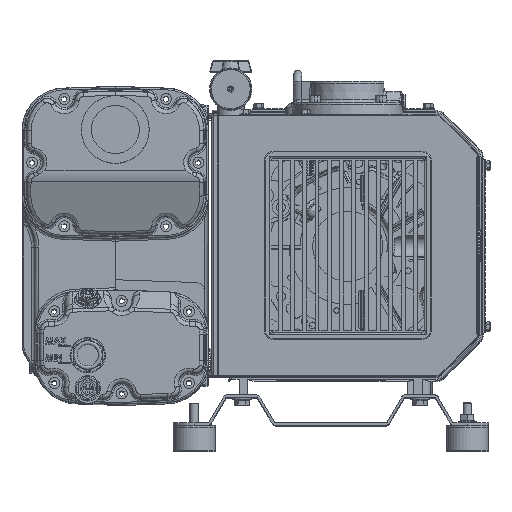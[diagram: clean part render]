
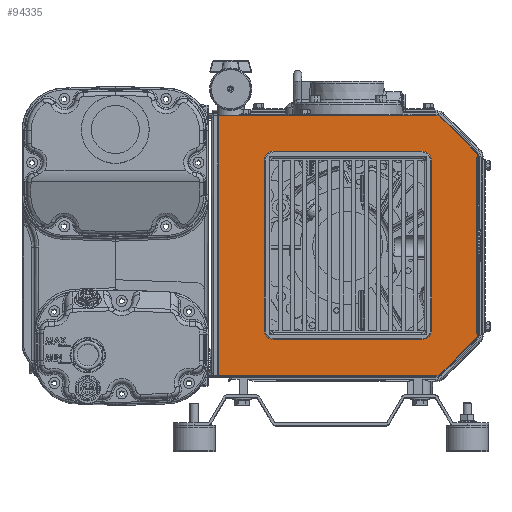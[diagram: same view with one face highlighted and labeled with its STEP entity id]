
A CAD part, top view. The second image highlights one B-rep face of the part: STEP entity #94335.
In plain terms, the highlighted planar face has unit normal (0, 0, 1).
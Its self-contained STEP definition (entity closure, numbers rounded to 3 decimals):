
#1367 = CIRCLE ( 'NONE', #78332, 8.5 ) ;
#6368 = VERTEX_POINT ( 'NONE', #95273 ) ;
#6603 = CARTESIAN_POINT ( 'NONE',  ( 153.5, 103.787, 285. ) ) ;
#8160 = DIRECTION ( 'NONE',  ( 1., 0., 0. ) ) ;
#9947 = CIRCLE ( 'NONE', #98193, 8.5 ) ;
#12001 = ORIENTED_EDGE ( 'NONE', *, *, #92216, .T. ) ;
#13150 = ORIENTED_EDGE ( 'NONE', *, *, #198646, .T. ) ;
#14613 = EDGE_LOOP ( 'NONE', ( #180829, #230528, #23146, #139866 ) ) ;
#17799 = CARTESIAN_POINT ( 'NONE',  ( 103.787, 153.5, 285. ) ) ;
#18079 = CARTESIAN_POINT ( 'NONE',  ( 145., -103.787, 285. ) ) ;
#20608 = LINE ( 'NONE', #218757, #79632 ) ;
#21210 = DIRECTION ( 'NONE',  ( 0., 0., 1. ) ) ;
#21258 = DIRECTION ( 'NONE',  ( 0., 1., 0. ) ) ;
#23146 = ORIENTED_EDGE ( 'NONE', *, *, #98541, .F. ) ;
#23892 = VECTOR ( 'NONE', #207256, 1000. ) ;
#29889 = EDGE_LOOP ( 'NONE', ( #13150, #228684, #104146, #73569, #146336, #111736, #64750, #157736, #12001, #192072 ) ) ;
#33811 = DIRECTION ( 'NONE',  ( 1., 0., 0. ) ) ;
#33984 = CARTESIAN_POINT ( 'NONE',  ( 103.787, -153.5, 285. ) ) ;
#35720 = DIRECTION ( 'NONE',  ( 1., 0., 0. ) ) ;
#36123 = CARTESIAN_POINT ( 'NONE',  ( -92.5, -105., 285. ) ) ;
#36374 = EDGE_CURVE ( 'NONE', #100460, #64462, #168041, .T. ) ;
#38701 = VECTOR ( 'NONE', #136417, 1000. ) ;
#39292 = CARTESIAN_POINT ( 'NONE',  ( 92.5, 105., 285. ) ) ;
#40511 = LINE ( 'NONE', #116020, #23892 ) ;
#41976 = CIRCLE ( 'NONE', #176002, 8.5 ) ;
#47042 = LINE ( 'NONE', #211393, #222506 ) ;
#53205 = EDGE_CURVE ( 'NONE', #56826, #119485, #70127, .T. ) ;
#56318 = EDGE_CURVE ( 'NONE', #231829, #100460, #104863, .T. ) ;
#56826 = VERTEX_POINT ( 'NONE', #36123 ) ;
#61198 = CARTESIAN_POINT ( 'NONE',  ( 103.787, -145., 285. ) ) ;
#64462 = VERTEX_POINT ( 'NONE', #6603 ) ;
#64750 = ORIENTED_EDGE ( 'NONE', *, *, #233534, .T. ) ;
#65919 = FACE_BOUND ( 'NONE', #14613, .T. ) ;
#70127 = LINE ( 'NONE', #106066, #121122 ) ;
#73026 = CARTESIAN_POINT ( 'NONE',  ( -92.5, 105., 285. ) ) ;
#73569 = ORIENTED_EDGE ( 'NONE', *, *, #36374, .T. ) ;
#78180 = DIRECTION ( 'NONE',  ( 0., 1., 0. ) ) ;
#78332 = AXIS2_PLACEMENT_3D ( 'NONE', #201893, #90380, #127420 ) ;
#79632 = VECTOR ( 'NONE', #201943, 1000. ) ;
#82788 = VERTEX_POINT ( 'NONE', #158311 ) ;
#84259 = VERTEX_POINT ( 'NONE', #17799 ) ;
#84685 = CARTESIAN_POINT ( 'NONE',  ( 109.797, -151.01, 285. ) ) ;
#86275 = FACE_OUTER_BOUND ( 'NONE', #29889, .T. ) ;
#90380 = DIRECTION ( 'NONE',  ( 0., 0., 1. ) ) ;
#92216 = EDGE_CURVE ( 'NONE', #214221, #6368, #203340, .T. ) ;
#94182 = CARTESIAN_POINT ( 'NONE',  ( 109.797, 151.01, 285. ) ) ;
#94335 = ADVANCED_FACE ( 'NONE', ( #86275, #65919 ), #159293, .T. ) ;
#95273 = CARTESIAN_POINT ( 'NONE',  ( -158., -153.5, 285. ) ) ;
#96522 = CARTESIAN_POINT ( 'NONE',  ( -158., 153.5, 285. ) ) ;
#96920 = LINE ( 'NONE', #39292, #165086 ) ;
#97937 = CARTESIAN_POINT ( 'NONE',  ( 145., 103.787, 285. ) ) ;
#98193 = AXIS2_PLACEMENT_3D ( 'NONE', #97937, #192587, #211772 ) ;
#98541 = EDGE_CURVE ( 'NONE', #124593, #56826, #210114, .T. ) ;
#100450 = CARTESIAN_POINT ( 'NONE',  ( 151.01, 109.797, 285. ) ) ;
#100460 = VERTEX_POINT ( 'NONE', #227165 ) ;
#104146 = ORIENTED_EDGE ( 'NONE', *, *, #56318, .T. ) ;
#104863 = CIRCLE ( 'NONE', #235218, 8.5 ) ;
#106066 = CARTESIAN_POINT ( 'NONE',  ( -92.5, -105., 285. ) ) ;
#109282 = CARTESIAN_POINT ( 'NONE',  ( 92.5, -105., 285. ) ) ;
#109363 = DIRECTION ( 'NONE',  ( 0., 0., 1. ) ) ;
#111736 = ORIENTED_EDGE ( 'NONE', *, *, #138587, .T. ) ;
#114842 = CARTESIAN_POINT ( 'NONE',  ( -158., 153.5, 285. ) ) ;
#114846 = CARTESIAN_POINT ( 'NONE',  ( -158., 153.5, 285. ) ) ;
#116020 = CARTESIAN_POINT ( 'NONE',  ( -92.5, 105., 285. ) ) ;
#116022 = LINE ( 'NONE', #226464, #38701 ) ;
#119485 = VERTEX_POINT ( 'NONE', #109282 ) ;
#121122 = VECTOR ( 'NONE', #127569, 1000. ) ;
#122981 = EDGE_CURVE ( 'NONE', #150894, #231829, #47042, .T. ) ;
#123208 = EDGE_CURVE ( 'NONE', #84259, #214221, #153190, .T. ) ;
#124593 = VERTEX_POINT ( 'NONE', #73026 ) ;
#127420 = DIRECTION ( 'NONE',  ( 1., 0., 0. ) ) ;
#127569 = DIRECTION ( 'NONE',  ( 1., 0., 0. ) ) ;
#127962 = VECTOR ( 'NONE', #78180, 1000. ) ;
#134514 = DIRECTION ( 'NONE',  ( 0., -1., 0. ) ) ;
#136417 = DIRECTION ( 'NONE',  ( 1., 0., 0. ) ) ;
#138587 = EDGE_CURVE ( 'NONE', #167644, #177992, #20608, .T. ) ;
#139866 = ORIENTED_EDGE ( 'NONE', *, *, #228138, .F. ) ;
#142671 = CARTESIAN_POINT ( 'NONE',  ( 151.01, -109.797, 285. ) ) ;
#146336 = ORIENTED_EDGE ( 'NONE', *, *, #202227, .T. ) ;
#147287 = EDGE_CURVE ( 'NONE', #119485, #82788, #96920, .T. ) ;
#147347 = EDGE_CURVE ( 'NONE', #6368, #206554, #116022, .T. ) ;
#150894 = VERTEX_POINT ( 'NONE', #84685 ) ;
#153190 = LINE ( 'NONE', #114846, #157476 ) ;
#156124 = DIRECTION ( 'NONE',  ( 0.707, 0.707, 0. ) ) ;
#157476 = VECTOR ( 'NONE', #206096, 1000. ) ;
#157736 = ORIENTED_EDGE ( 'NONE', *, *, #123208, .T. ) ;
#158311 = CARTESIAN_POINT ( 'NONE',  ( 92.5, 105., 285. ) ) ;
#159293 = PLANE ( 'NONE',  #171859 ) ;
#161350 = VECTOR ( 'NONE', #204529, 1000. ) ;
#165086 = VECTOR ( 'NONE', #21258, 1000. ) ;
#167644 = VERTEX_POINT ( 'NONE', #100450 ) ;
#168041 = LINE ( 'NONE', #188370, #127962 ) ;
#171859 = AXIS2_PLACEMENT_3D ( 'NONE', #202517, #21210, #35720 ) ;
#172683 = DIRECTION ( 'NONE',  ( 0., 0., 1. ) ) ;
#176002 = AXIS2_PLACEMENT_3D ( 'NONE', #61198, #172683, #8160 ) ;
#177992 = VERTEX_POINT ( 'NONE', #94182 ) ;
#180829 = ORIENTED_EDGE ( 'NONE', *, *, #147287, .F. ) ;
#188370 = CARTESIAN_POINT ( 'NONE',  ( 153.5, 103.787, 285. ) ) ;
#188495 = CARTESIAN_POINT ( 'NONE',  ( -92.5, 105., 285. ) ) ;
#192072 = ORIENTED_EDGE ( 'NONE', *, *, #147347, .T. ) ;
#192587 = DIRECTION ( 'NONE',  ( 0., 0., 1. ) ) ;
#198646 = EDGE_CURVE ( 'NONE', #206554, #150894, #41976, .T. ) ;
#201893 = CARTESIAN_POINT ( 'NONE',  ( 103.787, 145., 285. ) ) ;
#201943 = DIRECTION ( 'NONE',  ( -0.707, 0.707, 0. ) ) ;
#202227 = EDGE_CURVE ( 'NONE', #64462, #167644, #9947, .T. ) ;
#202517 = CARTESIAN_POINT ( 'NONE',  ( 103.787, -145., 285. ) ) ;
#203340 = LINE ( 'NONE', #96522, #161350 ) ;
#204529 = DIRECTION ( 'NONE',  ( 0., -1., 0. ) ) ;
#206096 = DIRECTION ( 'NONE',  ( -1., 0., 0. ) ) ;
#206554 = VERTEX_POINT ( 'NONE', #33984 ) ;
#207256 = DIRECTION ( 'NONE',  ( -1., 0., 0. ) ) ;
#210114 = LINE ( 'NONE', #188495, #215119 ) ;
#211393 = CARTESIAN_POINT ( 'NONE',  ( 151.01, -109.797, 285. ) ) ;
#211772 = DIRECTION ( 'NONE',  ( 1., 0., 0. ) ) ;
#214221 = VERTEX_POINT ( 'NONE', #114842 ) ;
#215119 = VECTOR ( 'NONE', #134514, 1000. ) ;
#218757 = CARTESIAN_POINT ( 'NONE',  ( 109.797, 151.01, 285. ) ) ;
#222506 = VECTOR ( 'NONE', #156124, 1000. ) ;
#226464 = CARTESIAN_POINT ( 'NONE',  ( 103.787, -153.5, 285. ) ) ;
#227165 = CARTESIAN_POINT ( 'NONE',  ( 153.5, -103.787, 285. ) ) ;
#228138 = EDGE_CURVE ( 'NONE', #82788, #124593, #40511, .T. ) ;
#228684 = ORIENTED_EDGE ( 'NONE', *, *, #122981, .T. ) ;
#230528 = ORIENTED_EDGE ( 'NONE', *, *, #53205, .F. ) ;
#231829 = VERTEX_POINT ( 'NONE', #142671 ) ;
#233534 = EDGE_CURVE ( 'NONE', #177992, #84259, #1367, .T. ) ;
#235218 = AXIS2_PLACEMENT_3D ( 'NONE', #18079, #109363, #33811 ) ;
